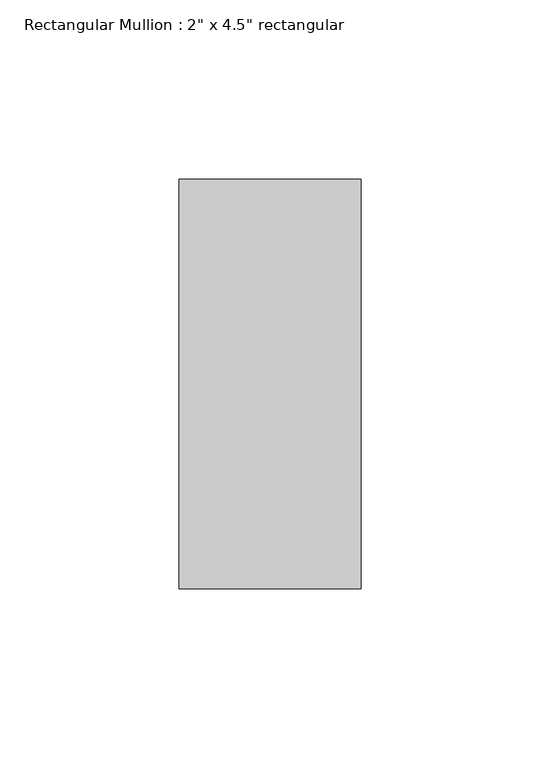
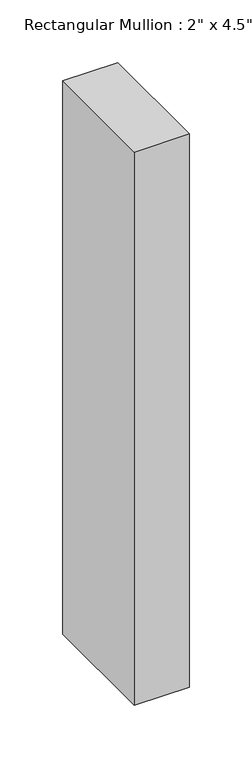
"""IFC4 building model written with IfcOpenShell, lengths in millimetres: member geometry."""

from ifc_helpers import new_model, si_unit, frame, origin, place, context, project, spatial, polyline, outline, extrude, source, transform, mapped, element, save


def member_129419c3(model_context):
    return source(origin(), model_context, "Body", "SweptSolid", [
        extrude(outline(polyline([(0.0, 57.15), (0.0, -57.15), (-50.8, -57.15), (-50.8, 57.15), (0.0, 57.15)])), frame((0.0, 0.0, -539.2533634), z_axis=(0.0, 0.0, 1.0), x_axis=(1.0, 0.0, 0.0)), (0.0, 0.0, 1.0), 539.2533634),
    ])


if __name__ == "__main__":
    model = new_model("IFC4")
    model_context = context("Model", 3, world=origin())
    ifc_project = project(units=[si_unit("LENGTHUNIT", "METRE", prefix="MILLI")], contexts=[model_context])
    site = spatial("IfcSite", under=ifc_project)
    building = spatial("IfcBuilding", under=site)
    placement = place(None, origin())
    member_shape = member_129419c3(model_context)
    element("IfcMember", 1, ObjectType="Rectangular Mullion : 2\" x 4.5\" rectangular", at=placement, inside=building, context=model_context, shape_type="MappedRepresentation", body=[
        mapped(member_shape, transform((0.0, 0.0, 0.0), x_axis=(1.0, 0.0, 0.0), y_axis=(0.0, 1.0, 0.0), z_axis=(0.0, 0.0, 1.0))),
    ])
    save(model, "model.ifc")
